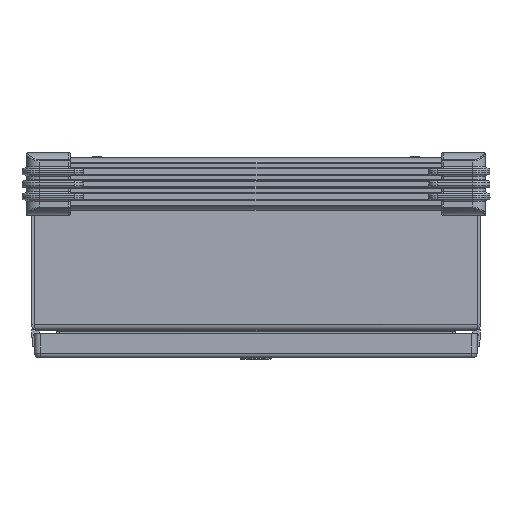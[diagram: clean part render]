
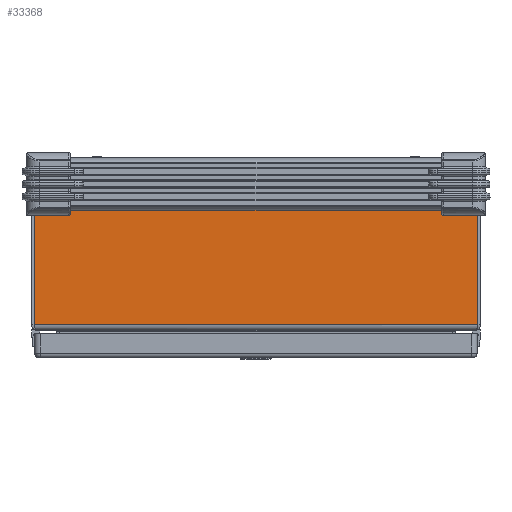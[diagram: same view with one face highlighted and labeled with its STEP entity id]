
A CAD part, left-side view. The second image highlights one B-rep face of the part: STEP entity #33368.
In plain terms, the highlighted planar face has unit normal (-1, 0, 0) as drawn and (1, 0, 0) by its records, which use the part's own axes.
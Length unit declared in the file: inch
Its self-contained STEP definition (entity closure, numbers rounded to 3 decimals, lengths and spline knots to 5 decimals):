
#1649 = CARTESIAN_POINT ( 'NONE',  ( 6.8905, -75.303, 4.564 ) ) ;
#1659 = PLANE ( 'NONE',  #51517 ) ;
#1661 = DIRECTION ( 'NONE',  ( 1., 0., 0. ) ) ;
#1663 = DIRECTION ( 'NONE',  ( 0., 0., -1. ) ) ;
#2244 = CARTESIAN_POINT ( 'NONE',  ( 6.8905, 4.33, 0.553 ) ) ;
#2250 = DIRECTION ( 'NONE',  ( 0., 1., 0. ) ) ;
#2252 = CARTESIAN_POINT ( 'NONE',  ( 6.8905, -75.303, 0.132 ) ) ;
#2408 = CARTESIAN_POINT ( 'NONE',  ( 6.8905, 6.31893, 4.564 ) ) ;
#2410 = DIRECTION ( 'NONE',  ( 0., 0., 1. ) ) ;
#2449 = CARTESIAN_POINT ( 'NONE',  ( 6.8905, -4.33, 0.553 ) ) ;
#2495 = DIRECTION ( 'NONE',  ( 0., 0., -1. ) ) ;
#2497 = CARTESIAN_POINT ( 'NONE',  ( 6.8905, -6.31893, 4.564 ) ) ;
#2563 = DIRECTION ( 'NONE',  ( 0., 0., -1. ) ) ;
#2565 = DIRECTION ( 'NONE',  ( 1., 0., 0. ) ) ;
#2577 = DIRECTION ( 'NONE',  ( 0., 1., 0. ) ) ;
#2587 = CARTESIAN_POINT ( 'NONE',  ( 6.8905, -75.303, 4.564 ) ) ;
#2624 = DIRECTION ( 'NONE',  ( 1., 0., 0. ) ) ;
#2626 = DIRECTION ( 'NONE',  ( 0., 0., -1. ) ) ;
#16194 = VERTEX_POINT ( 'NONE', #24333 ) ;
#16195 = VERTEX_POINT ( 'NONE', #24327 ) ;
#16220 = VERTEX_POINT ( 'NONE', #24293 ) ;
#16432 = VERTEX_POINT ( 'NONE', #24744 ) ;
#16466 = VERTEX_POINT ( 'NONE', #24616 ) ;
#16566 = VERTEX_POINT ( 'NONE', #60121 ) ;
#16589 = VERTEX_POINT ( 'NONE', #60087 ) ;
#16593 = VERTEX_POINT ( 'NONE', #60075 ) ;
#24293 = CARTESIAN_POINT ( 'NONE',  ( 6.8905, -6.31893, 0.132 ) ) ;
#24327 = CARTESIAN_POINT ( 'NONE',  ( 6.8905, 6.31893, 4.564 ) ) ;
#24333 = CARTESIAN_POINT ( 'NONE',  ( 6.8905, 6.31893, 0.132 ) ) ;
#24616 = CARTESIAN_POINT ( 'NONE',  ( 6.8905, -4.33, 0.662 ) ) ;
#24744 = CARTESIAN_POINT ( 'NONE',  ( 6.8905, -6.31893, 4.564 ) ) ;
#30646 = EDGE_CURVE ( 'NONE', #16466, #16566, #57516, .T. ) ;
#30664 = EDGE_CURVE ( 'NONE', #16589, #16593, #57528, .T. ) ;
#30881 = EDGE_CURVE ( 'NONE', #16432, #16220, #57690, .T. ) ;
#30973 = EDGE_CURVE ( 'NONE', #16194, #16195, #57748, .T. ) ;
#30990 = EDGE_CURVE ( 'NONE', #16566, #16466, #57771, .T. ) ;
#30992 = EDGE_CURVE ( 'NONE', #16432, #16195, #57763, .T. ) ;
#31007 = EDGE_CURVE ( 'NONE', #16593, #16589, #57786, .T. ) ;
#31009 = EDGE_CURVE ( 'NONE', #16220, #16194, #57773, .T. ) ;
#33368 = ADVANCED_FACE ( 'NONE', ( #67179, #67184, #67186 ), #1659, .T. ) ;
#50971 = AXIS2_PLACEMENT_3D ( 'NONE', #63649, #63674, #63650 ) ;
#50979 = AXIS2_PLACEMENT_3D ( 'NONE', #63683, #63865, #63866 ) ;
#51028 = AXIS2_PLACEMENT_3D ( 'NONE', #2449, #2624, #2626 ) ;
#51030 = AXIS2_PLACEMENT_3D ( 'NONE', #2244, #2565, #2563 ) ;
#51517 = AXIS2_PLACEMENT_3D ( 'NONE', #1649, #1661, #1663 ) ;
#51813 = EDGE_LOOP ( 'NONE', ( #55982, #55983 ) ) ;
#51879 = EDGE_LOOP ( 'NONE', ( #55984, #55985 ) ) ;
#51893 = EDGE_LOOP ( 'NONE', ( #55986, #55987, #55988, #55989 ) ) ;
#55982 = ORIENTED_EDGE ( 'NONE', *, *, #30646, .F. ) ;
#55983 = ORIENTED_EDGE ( 'NONE', *, *, #30990, .F. ) ;
#55984 = ORIENTED_EDGE ( 'NONE', *, *, #30664, .F. ) ;
#55985 = ORIENTED_EDGE ( 'NONE', *, *, #31007, .F. ) ;
#55986 = ORIENTED_EDGE ( 'NONE', *, *, #30973, .T. ) ;
#55987 = ORIENTED_EDGE ( 'NONE', *, *, #30992, .F. ) ;
#55988 = ORIENTED_EDGE ( 'NONE', *, *, #30881, .T. ) ;
#55989 = ORIENTED_EDGE ( 'NONE', *, *, #31009, .T. ) ;
#57516 = CIRCLE ( 'NONE', #50971, 0.109 ) ;
#57528 = CIRCLE ( 'NONE', #50979, 0.109 ) ;
#57690 = LINE ( 'NONE', #2497, #57691 ) ;
#57691 = VECTOR ( 'NONE', #2495, 39.37008 ) ;
#57748 = LINE ( 'NONE', #2408, #57756 ) ;
#57756 = VECTOR ( 'NONE', #2410, 39.37008 ) ;
#57763 = LINE ( 'NONE', #2587, #57764 ) ;
#57764 = VECTOR ( 'NONE', #2577, 39.37008 ) ;
#57769 = VECTOR ( 'NONE', #2250, 39.37008 ) ;
#57771 = CIRCLE ( 'NONE', #51028, 0.109 ) ;
#57773 = LINE ( 'NONE', #2252, #57769 ) ;
#57786 = CIRCLE ( 'NONE', #51030, 0.109 ) ;
#60075 = CARTESIAN_POINT ( 'NONE',  ( 6.8905, 4.33, 0.444 ) ) ;
#60087 = CARTESIAN_POINT ( 'NONE',  ( 6.8905, 4.33, 0.662 ) ) ;
#60121 = CARTESIAN_POINT ( 'NONE',  ( 6.8905, -4.33, 0.444 ) ) ;
#63649 = CARTESIAN_POINT ( 'NONE',  ( 6.8905, -4.33, 0.553 ) ) ;
#63650 = DIRECTION ( 'NONE',  ( 0., 0., -1. ) ) ;
#63674 = DIRECTION ( 'NONE',  ( 1., 0., 0. ) ) ;
#63683 = CARTESIAN_POINT ( 'NONE',  ( 6.8905, 4.33, 0.553 ) ) ;
#63865 = DIRECTION ( 'NONE',  ( 1., 0., 0. ) ) ;
#63866 = DIRECTION ( 'NONE',  ( 0., 0., -1. ) ) ;
#67179 = FACE_BOUND ( 'NONE', #51813, .T. ) ;
#67184 = FACE_BOUND ( 'NONE', #51879, .T. ) ;
#67186 = FACE_OUTER_BOUND ( 'NONE', #51893, .T. ) ;
